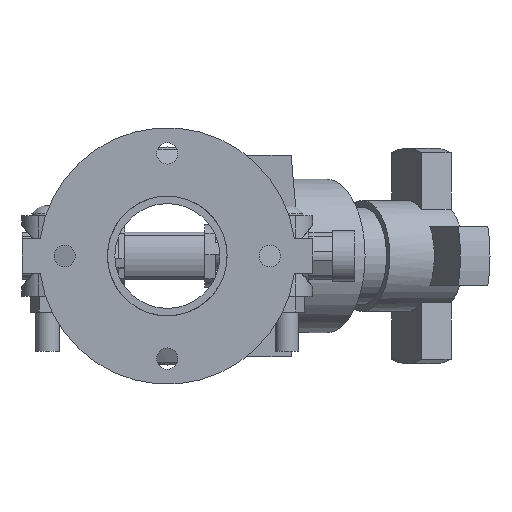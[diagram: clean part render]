
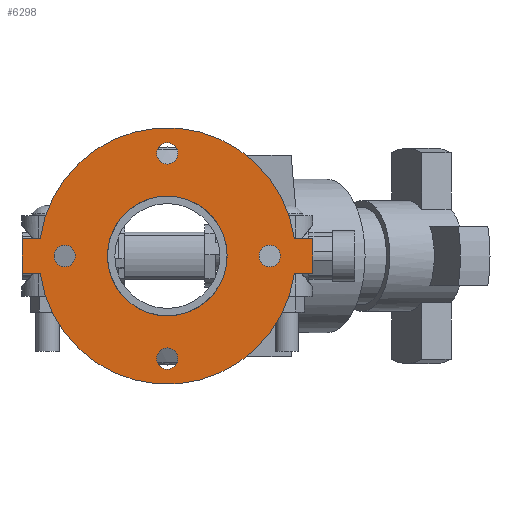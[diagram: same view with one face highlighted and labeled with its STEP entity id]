
A CAD part, front view. The second image highlights one B-rep face of the part: STEP entity #6298.
In plain terms, the highlighted planar face has unit normal (0, -1, 0) as drawn and (0, 0, 1) by its records, which use the part's own axes.
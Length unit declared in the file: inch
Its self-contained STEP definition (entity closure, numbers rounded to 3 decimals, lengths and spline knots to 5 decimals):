
#173=FACE_BOUND('',#795,.T.);
#174=FACE_BOUND('',#796,.T.);
#175=FACE_BOUND('',#797,.T.);
#176=FACE_BOUND('',#798,.T.);
#177=FACE_BOUND('',#799,.T.);
#240=PLANE('',#6855);
#446=FACE_OUTER_BOUND('',#794,.T.);
#794=EDGE_LOOP('',(#4074,#4075,#4076,#4077,#4078,#4079,#4080,#4081));
#795=EDGE_LOOP('',(#4082));
#796=EDGE_LOOP('',(#4083));
#797=EDGE_LOOP('',(#4084));
#798=EDGE_LOOP('',(#4085));
#799=EDGE_LOOP('',(#4086,#4087));
#1199=LINE('',#9623,#1672);
#1200=LINE('',#9626,#1673);
#1203=LINE('',#9631,#1676);
#1204=LINE('',#9634,#1677);
#1206=LINE('',#9637,#1679);
#1207=LINE('',#9639,#1680);
#1672=VECTOR('',#7646,0.3937);
#1673=VECTOR('',#7649,0.3937);
#1676=VECTOR('',#7654,0.3937);
#1677=VECTOR('',#7657,0.3937);
#1679=VECTOR('',#7661,0.3937);
#1680=VECTOR('',#7664,0.3937);
#2129=CIRCLE('',#6826,0.3125);
#2131=CIRCLE('',#6829,0.3125);
#2133=CIRCLE('',#6832,0.3125);
#2135=CIRCLE('',#6835,0.3125);
#2141=CIRCLE('',#6843,3.75);
#2142=CIRCLE('',#6845,1.75);
#2143=CIRCLE('',#6846,1.75);
#2144=CIRCLE('',#6848,3.75);
#2492=VERTEX_POINT('',#9558);
#2494=VERTEX_POINT('',#9564);
#2496=VERTEX_POINT('',#9570);
#2498=VERTEX_POINT('',#9576);
#2510=VERTEX_POINT('',#9603);
#2511=VERTEX_POINT('',#9605);
#2512=VERTEX_POINT('',#9609);
#2513=VERTEX_POINT('',#9611);
#2514=VERTEX_POINT('',#9615);
#2515=VERTEX_POINT('',#9617);
#2516=VERTEX_POINT('',#9621);
#2517=VERTEX_POINT('',#9625);
#2518=VERTEX_POINT('',#9629);
#2519=VERTEX_POINT('',#9633);
#3102=EDGE_CURVE('',#2492,#2492,#2129,.T.);
#3105=EDGE_CURVE('',#2494,#2494,#2131,.T.);
#3108=EDGE_CURVE('',#2496,#2496,#2133,.T.);
#3111=EDGE_CURVE('',#2498,#2498,#2135,.T.);
#3126=EDGE_CURVE('',#2510,#2511,#2141,.T.);
#3128=EDGE_CURVE('',#2513,#2512,#2142,.T.);
#3129=EDGE_CURVE('',#2512,#2513,#2143,.T.);
#3131=EDGE_CURVE('',#2515,#2514,#2144,.T.);
#3134=EDGE_CURVE('',#2511,#2516,#1199,.T.);
#3135=EDGE_CURVE('',#2517,#2515,#1200,.T.);
#3138=EDGE_CURVE('',#2514,#2518,#1203,.T.);
#3139=EDGE_CURVE('',#2519,#2510,#1204,.T.);
#3141=EDGE_CURVE('',#2518,#2519,#1206,.T.);
#3142=EDGE_CURVE('',#2516,#2517,#1207,.T.);
#4074=ORIENTED_EDGE('',*,*,#3138,.T.);
#4075=ORIENTED_EDGE('',*,*,#3141,.T.);
#4076=ORIENTED_EDGE('',*,*,#3139,.T.);
#4077=ORIENTED_EDGE('',*,*,#3126,.T.);
#4078=ORIENTED_EDGE('',*,*,#3134,.T.);
#4079=ORIENTED_EDGE('',*,*,#3142,.T.);
#4080=ORIENTED_EDGE('',*,*,#3135,.T.);
#4081=ORIENTED_EDGE('',*,*,#3131,.T.);
#4082=ORIENTED_EDGE('',*,*,#3102,.T.);
#4083=ORIENTED_EDGE('',*,*,#3105,.T.);
#4084=ORIENTED_EDGE('',*,*,#3108,.T.);
#4085=ORIENTED_EDGE('',*,*,#3111,.T.);
#4086=ORIENTED_EDGE('',*,*,#3128,.T.);
#4087=ORIENTED_EDGE('',*,*,#3129,.T.);
#6298=ADVANCED_FACE('',(#446,#173,#174,#175,#176,#177),#240,.T.);
#6826=AXIS2_PLACEMENT_3D('',#9559,#7582,#7583);
#6829=AXIS2_PLACEMENT_3D('',#9565,#7589,#7590);
#6832=AXIS2_PLACEMENT_3D('',#9571,#7596,#7597);
#6835=AXIS2_PLACEMENT_3D('',#9577,#7603,#7604);
#6843=AXIS2_PLACEMENT_3D('',#9607,#7628,#7629);
#6845=AXIS2_PLACEMENT_3D('',#9612,#7633,#7634);
#6846=AXIS2_PLACEMENT_3D('',#9613,#7635,#7636);
#6848=AXIS2_PLACEMENT_3D('',#9618,#7640,#7641);
#6855=AXIS2_PLACEMENT_3D('',#9640,#7665,#7666);
#7582=DIRECTION('center_axis',(0.,0.,-1.));
#7583=DIRECTION('ref_axis',(0.,1.,0.));
#7589=DIRECTION('center_axis',(0.,0.,-1.));
#7590=DIRECTION('ref_axis',(1.,0.,0.));
#7596=DIRECTION('center_axis',(0.,0.,-1.));
#7597=DIRECTION('ref_axis',(0.,-1.,0.));
#7603=DIRECTION('center_axis',(0.,0.,-1.));
#7604=DIRECTION('ref_axis',(-1.,0.,0.));
#7628=DIRECTION('center_axis',(0.,0.,1.));
#7629=DIRECTION('ref_axis',(-1.,0.,0.));
#7633=DIRECTION('center_axis',(0.,0.,-1.));
#7634=DIRECTION('ref_axis',(-1.,0.,0.));
#7635=DIRECTION('center_axis',(0.,0.,-1.));
#7636=DIRECTION('ref_axis',(-1.,0.,0.));
#7640=DIRECTION('center_axis',(0.,0.,1.));
#7641=DIRECTION('ref_axis',(-1.,0.,0.));
#7646=DIRECTION('',(0.,1.,0.));
#7649=DIRECTION('',(0.,-1.,0.));
#7654=DIRECTION('',(0.,-1.,0.));
#7657=DIRECTION('',(0.,1.,0.));
#7661=DIRECTION('',(1.,0.,0.));
#7664=DIRECTION('',(-1.,0.,0.));
#7665=DIRECTION('center_axis',(0.,0.,1.));
#7666=DIRECTION('ref_axis',(1.,0.,0.));
#9558=CARTESIAN_POINT('',(0.,2.6875,0.5));
#9559=CARTESIAN_POINT('Origin',(0.,3.,0.5));
#9564=CARTESIAN_POINT('',(2.6875,0.,0.5));
#9565=CARTESIAN_POINT('Origin',(3.,0.,0.5));
#9570=CARTESIAN_POINT('',(0.,-2.6875,0.5));
#9571=CARTESIAN_POINT('Origin',(0.,-3.,0.5));
#9576=CARTESIAN_POINT('',(-2.6875,0.,0.5));
#9577=CARTESIAN_POINT('Origin',(-3.,0.,0.5));
#9603=CARTESIAN_POINT('',(0.5,-3.71652,0.5));
#9605=CARTESIAN_POINT('',(0.5,3.71652,0.5));
#9607=CARTESIAN_POINT('Origin',(0.,0.,0.5));
#9609=CARTESIAN_POINT('',(1.75,0.,0.5));
#9611=CARTESIAN_POINT('',(0.5,1.67705,0.5));
#9612=CARTESIAN_POINT('Origin',(0.,0.,0.5));
#9613=CARTESIAN_POINT('Origin',(0.,0.,0.5));
#9615=CARTESIAN_POINT('',(-0.5,-3.71652,0.5));
#9617=CARTESIAN_POINT('',(-0.5,3.71652,0.5));
#9618=CARTESIAN_POINT('Origin',(0.,0.,0.5));
#9621=CARTESIAN_POINT('',(0.5,4.25,0.5));
#9623=CARTESIAN_POINT('',(0.5,4.25,0.5));
#9625=CARTESIAN_POINT('',(-0.5,4.25,0.5));
#9626=CARTESIAN_POINT('',(-0.5,-4.25,0.5));
#9629=CARTESIAN_POINT('',(-0.5,-4.25,0.5));
#9631=CARTESIAN_POINT('',(-0.5,-4.25,0.5));
#9633=CARTESIAN_POINT('',(0.5,-4.25,0.5));
#9634=CARTESIAN_POINT('',(0.5,4.25,0.5));
#9637=CARTESIAN_POINT('',(0.5,-4.25,0.5));
#9639=CARTESIAN_POINT('',(-0.5,4.25,0.5));
#9640=CARTESIAN_POINT('Origin',(0.,0.,0.5));
